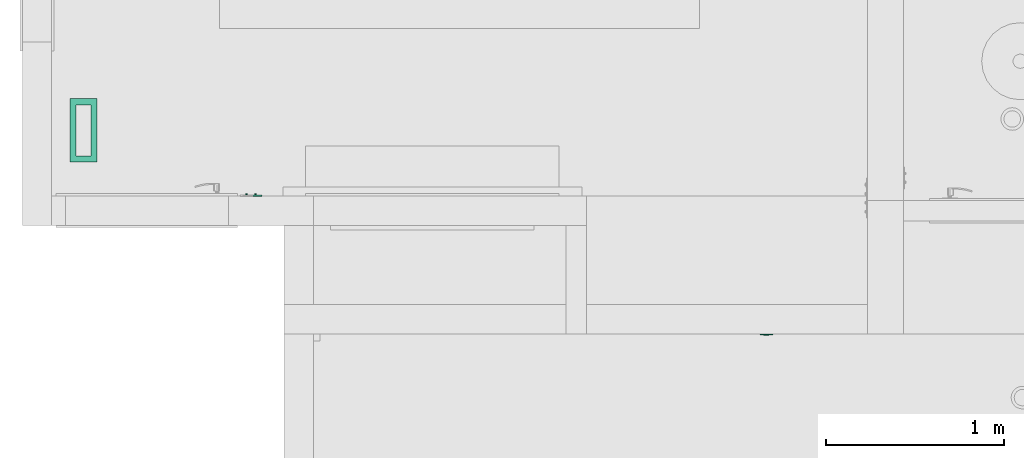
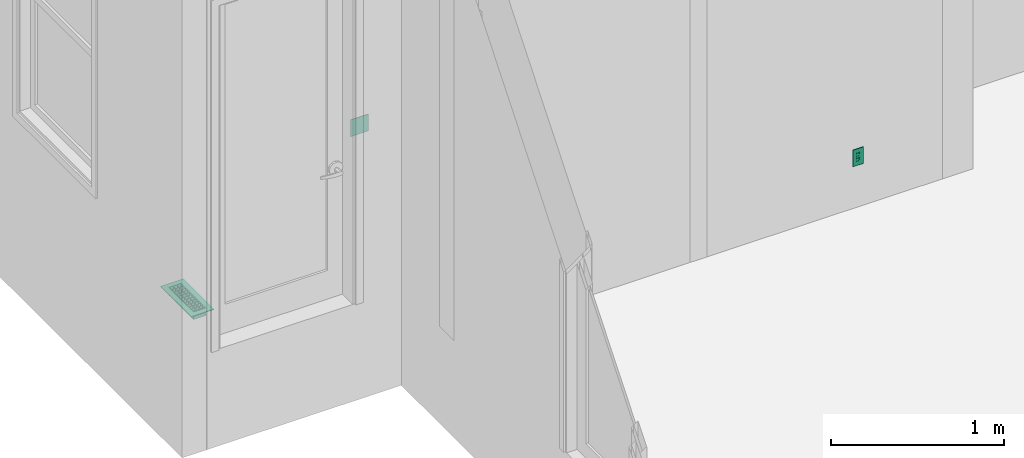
# One storey, part 19 of 103: 2 flow controllers, 1 distribution flow element.
"""IFC2X3 building model written with IfcOpenShell, lengths in inches."""

from ifc_helpers import new_model, entity, si_unit, converted_unit, derived_unit, money_unit, direction, frame, origin_with_axes, place, context, subcontext, project, spatial, open_shell, faceted_brep, surface_model, source, transform, mapped, type_object, element, save


model = new_model("IFC2X3")

# Units and contexts
model_context = context("Model", 3, precision=0.00039370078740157, world=origin_with_axes(), true_north=direction((0.0, 1.0)))
plan_context = context("Plan", 3, precision=0.00039370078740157, world=origin_with_axes(), true_north=direction((0.0, 1.0)))
body_context = subcontext(model_context, "Body", "Model", "MODEL_VIEW")
ifc_project = project(units=[converted_unit("LENGTHUNIT", "INCH", entity("IfcPositiveLengthMeasure", 0.0254), si_unit("LENGTHUNIT", "METRE"), dimensions=[1, 0, 0, 0, 0, 0, 0]), converted_unit("AREAUNIT", "SQUARE_FOOT", entity("IfcPositiveLengthMeasure", 0.09290304), si_unit("AREAUNIT", "SQUARE_METRE"), dimensions=[2, 0, 0, 0, 0, 0, 0]), si_unit("PLANEANGLEUNIT", "RADIAN"), si_unit("SOLIDANGLEUNIT", "STERADIAN"), money_unit("USD"), converted_unit("TIMEUNIT", "Year", entity("IfcTimeMeasure", 31557600.0), si_unit("TIMEUNIT", "SECOND"), dimensions=[0, 0, 1, 0, 0, 0, 0]), si_unit("MASSUNIT", "GRAM", prefix="KILO"), si_unit("THERMODYNAMICTEMPERATUREUNIT", "DEGREE_CELSIUS"), si_unit("LUMINOUSINTENSITYUNIT", "LUMEN"), si_unit("ENERGYUNIT", "JOULE", prefix="MEGA"), derived_unit("SPECIFICHEATCAPACITYUNIT", [(si_unit("ENERGYUNIT", "JOULE"), 1), (si_unit("MASSUNIT", "GRAM", prefix="KILO"), -1), (si_unit("THERMODYNAMICTEMPERATUREUNIT", "KELVIN"), -1)])], contexts=[model_context, plan_context])

# Site, building, storey
site_placement = place(None, origin_with_axes())
site = spatial("IfcSite", under=ifc_project, at=site_placement, Name="Site", CompositionType="ELEMENT")
building_placement = place(site_placement, origin_with_axes())
building = spatial("IfcBuilding", under=site, at=building_placement, Name="Building", CompositionType="ELEMENT")
storey_placement = place(building_placement, frame((0.0, 0.0, 127.9999999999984), z_axis=(0.0, 0.0, 1.0), x_axis=(1.0, 0.0, 0.0)))
storey = spatial("IfcBuildingStorey", under=building, at=storey_placement, Name="Second Floor", CompositionType="ELEMENT", Elevation=128.0)

# Flow controllers
switching_device_type_1 = type_object("IfcSwitchingDeviceType", Name="Outlet 1 US", PredefinedType="NOTDEFINED")
shared_shape_1 = source(origin_with_axes(), body_context, "Body", "Brep", [
    faceted_brep([(0.39370078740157, -0.03444881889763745, -1.18110236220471), (0.5436477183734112, -0.03444881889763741, -0.7086614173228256), (0.5436477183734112, -0.2165354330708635, -0.7086614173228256), (0.39370078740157, -0.2165354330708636, -1.18110236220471), (-0.3937007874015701, -0.03444881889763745, -1.181102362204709), (-0.543647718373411, -0.03444881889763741, -0.7086614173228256), (-0.39370078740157, -0.03444881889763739, -0.2362204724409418), (0.3937007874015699, -0.03444881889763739, -0.2362204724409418), (-0.196850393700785, -0.03444881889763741, -0.7086614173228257), (-0.196850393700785, -0.0344488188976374, -0.4724409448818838), (-0.275590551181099, -0.0344488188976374, -0.4724409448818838), (-0.275590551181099, -0.03444881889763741, -0.7086614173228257), (0.196850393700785, -0.03444881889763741, -0.7086614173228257), (0.275590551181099, -0.03444881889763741, -0.7086614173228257), (0.275590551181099, -0.0344488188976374, -0.4724409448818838), (0.196850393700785, -0.0344488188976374, -0.4724409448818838), (-0.078740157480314, -0.03444881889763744, -1.102362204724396), (0.078740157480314, -0.03444881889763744, -1.102362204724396), (0.078740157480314, -0.03444881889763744, -1.023622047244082), (0.06819097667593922, -0.03444881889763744, -0.9842519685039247), (0.03937007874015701, -0.03444881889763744, -0.9554310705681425), (0.0, -0.03444881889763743, -0.9448818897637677), (-0.03937007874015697, -0.03444881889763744, -0.9554310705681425), (-0.06819097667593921, -0.03444881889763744, -0.9842519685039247), (-0.078740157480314, -0.03444881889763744, -1.023622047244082), (0.3937007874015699, -0.2165354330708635, -0.2362204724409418), (-0.39370078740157, -0.2165354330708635, -0.2362204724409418), (-0.543647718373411, -0.2165354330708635, -0.7086614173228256), (-0.3937007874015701, -0.2165354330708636, -1.181102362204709), (-0.196850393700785, -0.2165354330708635, -0.7086614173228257), (-0.275590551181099, -0.2165354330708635, -0.7086614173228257), (-0.275590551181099, -0.2165354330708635, -0.4724409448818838), (-0.196850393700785, -0.2165354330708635, -0.4724409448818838), (0.196850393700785, -0.2165354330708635, -0.7086614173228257), (0.196850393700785, -0.2165354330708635, -0.4724409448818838), (0.275590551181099, -0.2165354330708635, -0.4724409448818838), (0.275590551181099, -0.2165354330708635, -0.7086614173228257), (-0.078740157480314, -0.2165354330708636, -1.102362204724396), (-0.078740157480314, -0.2165354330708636, -1.023622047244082), (-0.06819097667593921, -0.2165354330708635, -0.9842519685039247), (-0.03937007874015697, -0.2165354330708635, -0.9554310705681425), (0.0, -0.2165354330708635, -0.9448818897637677), (0.03937007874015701, -0.2165354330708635, -0.9554310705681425), (0.06819097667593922, -0.2165354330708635, -0.9842519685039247), (0.078740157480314, -0.2165354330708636, -1.023622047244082), (0.078740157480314, -0.2165354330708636, -1.102362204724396)], [[[0, 1, 2, 3]], [[0, 4, 5, 6, 7, 1], [8, 9, 10, 11], [12, 13, 14, 15], [16, 17, 18, 19, 20, 21, 22, 23, 24]], [[1, 7, 25, 2]], [[3, 2, 25, 26, 27, 28], [29, 30, 31, 32], [33, 34, 35, 36], [37, 38, 39, 40, 41, 42, 43, 44, 45]], [[4, 0, 3, 28]], [[5, 4, 28, 27]], [[6, 5, 27, 26]], [[7, 6, 26, 25]], [[9, 8, 29, 32]], [[10, 9, 32, 31]], [[11, 10, 31, 30]], [[8, 11, 30, 29]], [[13, 12, 33, 36]], [[14, 13, 36, 35]], [[15, 14, 35, 34]], [[12, 15, 34, 33]], [[17, 16, 37, 45]], [[18, 17, 45, 44]], [[19, 18, 44, 43]], [[20, 19, 43, 42]], [[21, 20, 42, 41]], [[22, 21, 41, 40]], [[23, 22, 40, 39]], [[24, 23, 39, 38]], [[16, 24, 38, 37]]]),
    faceted_brep([(0.39370078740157, -0.03444881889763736, 0.2362204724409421), (0.5436477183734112, -0.03444881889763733, 0.7086614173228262), (0.5436477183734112, -0.2165354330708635, 0.7086614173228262), (0.39370078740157, -0.2165354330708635, 0.2362204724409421), (-0.3937007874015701, -0.03444881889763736, 0.2362204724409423), (-0.543647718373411, -0.03444881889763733, 0.7086614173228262), (-0.39370078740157, -0.0344488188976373, 1.18110236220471), (0.3937007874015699, -0.0344488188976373, 1.18110236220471), (-0.196850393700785, -0.03444881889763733, 0.7086614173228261), (-0.196850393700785, -0.03444881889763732, 0.944881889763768), (-0.275590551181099, -0.03444881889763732, 0.944881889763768), (-0.275590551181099, -0.03444881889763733, 0.7086614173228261), (0.196850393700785, -0.03444881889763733, 0.7086614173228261), (0.275590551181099, -0.03444881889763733, 0.7086614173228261), (0.275590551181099, -0.03444881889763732, 0.944881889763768), (0.196850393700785, -0.03444881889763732, 0.944881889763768), (-0.078740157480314, -0.03444881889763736, 0.3149606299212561), (0.078740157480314, -0.03444881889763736, 0.3149606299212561), (0.078740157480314, -0.03444881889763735, 0.3937007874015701), (0.06819097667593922, -0.03444881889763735, 0.4330708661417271), (0.03937007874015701, -0.03444881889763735, 0.4618917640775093), (0.0, -0.03444881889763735, 0.472440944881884), (-0.03937007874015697, -0.03444881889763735, 0.4618917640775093), (-0.06819097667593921, -0.03444881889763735, 0.4330708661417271), (-0.078740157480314, -0.03444881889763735, 0.3937007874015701), (0.3937007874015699, -0.2165354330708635, 1.18110236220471), (-0.39370078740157, -0.2165354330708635, 1.18110236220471), (-0.543647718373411, -0.2165354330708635, 0.7086614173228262), (-0.3937007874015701, -0.2165354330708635, 0.2362204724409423), (-0.196850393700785, -0.2165354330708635, 0.7086614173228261), (-0.275590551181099, -0.2165354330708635, 0.7086614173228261), (-0.275590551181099, -0.2165354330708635, 0.944881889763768), (-0.196850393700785, -0.2165354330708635, 0.944881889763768), (0.196850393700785, -0.2165354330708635, 0.7086614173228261), (0.196850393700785, -0.2165354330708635, 0.944881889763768), (0.275590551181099, -0.2165354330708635, 0.944881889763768), (0.275590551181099, -0.2165354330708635, 0.7086614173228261), (-0.078740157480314, -0.2165354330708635, 0.3149606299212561), (-0.078740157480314, -0.2165354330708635, 0.3937007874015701), (-0.06819097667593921, -0.2165354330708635, 0.4330708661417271), (-0.03937007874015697, -0.2165354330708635, 0.4618917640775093), (0.0, -0.2165354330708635, 0.472440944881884), (0.03937007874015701, -0.2165354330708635, 0.4618917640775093), (0.06819097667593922, -0.2165354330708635, 0.4330708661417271), (0.078740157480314, -0.2165354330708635, 0.3937007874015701), (0.078740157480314, -0.2165354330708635, 0.3149606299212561)], [[[0, 1, 2, 3]], [[0, 4, 5, 6, 7, 1], [8, 9, 10, 11], [12, 13, 14, 15], [16, 17, 18, 19, 20, 21, 22, 23, 24]], [[1, 7, 25, 2]], [[3, 2, 25, 26, 27, 28], [29, 30, 31, 32], [33, 34, 35, 36], [37, 38, 39, 40, 41, 42, 43, 44, 45]], [[4, 0, 3, 28]], [[5, 4, 28, 27]], [[6, 5, 27, 26]], [[7, 6, 26, 25]], [[9, 8, 29, 32]], [[10, 9, 32, 31]], [[11, 10, 31, 30]], [[8, 11, 30, 29]], [[13, 12, 33, 36]], [[14, 13, 36, 35]], [[15, 14, 35, 34]], [[12, 15, 34, 33]], [[17, 16, 37, 45]], [[18, 17, 45, 44]], [[19, 18, 44, 43]], [[20, 19, 43, 42]], [[21, 20, 42, 41]], [[22, 21, 41, 40]], [[23, 22, 40, 39]], [[24, 23, 39, 38]], [[16, 24, 38, 37]]]),
    faceted_brep([(-1.343503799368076, -0.1377952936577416, -2.327755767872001), (1.343503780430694, -0.1377952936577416, -2.327755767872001), (1.343503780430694, -0.1377952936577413, 2.327755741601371), (-1.343503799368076, -0.1377952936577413, 2.327755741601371), (0.39370078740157, -0.1377952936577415, -1.18110236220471), (-0.3937007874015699, -0.1377952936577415, -1.181102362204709), (-0.5436477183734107, -0.1377952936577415, -0.7086614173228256), (-0.39370078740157, -0.1377952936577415, -0.2362204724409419), (0.3937007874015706, -0.1377952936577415, -0.2362204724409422), (0.5436477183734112, -0.1377952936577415, -0.7086614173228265), (-0.39370078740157, -0.1377952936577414, 1.18110236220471), (0.3937007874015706, -0.1377952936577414, 1.18110236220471), (0.5436477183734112, -0.1377952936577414, 0.7086614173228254), (0.39370078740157, -0.1377952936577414, 0.236220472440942), (-0.3937007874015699, -0.1377952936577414, 0.2362204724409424), (-0.5436477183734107, -0.1377952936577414, 0.7086614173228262), (-1.352419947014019, -0.1366214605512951, -2.336671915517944), (1.352419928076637, -0.1366214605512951, -2.336671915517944), (1.352419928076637, -0.1366214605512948, 2.336671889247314), (-1.352419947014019, -0.1366214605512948, 2.336671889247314), (0.39370078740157, -0.03444881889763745, -1.18110236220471), (-0.3937007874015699, -0.03444881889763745, -1.181102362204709), (-0.5436477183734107, -0.03444881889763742, -0.7086614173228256), (-0.39370078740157, -0.03444881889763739, -0.2362204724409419), (0.3937007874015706, -0.03444881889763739, -0.2362204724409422), (0.5436477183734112, -0.03444881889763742, -0.7086614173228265), (-0.39370078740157, -0.0344488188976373, 1.18110236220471), (0.3937007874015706, -0.0344488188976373, 1.18110236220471), (0.5436477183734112, -0.03444881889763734, 0.7086614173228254), (0.39370078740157, -0.03444881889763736, 0.236220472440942), (-0.3937007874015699, -0.03444881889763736, 0.2362204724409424), (-0.5436477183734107, -0.03444881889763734, 0.7086614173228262), (-1.36786294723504, -0.1277054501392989, -2.352114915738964), (1.367862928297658, -0.1277054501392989, -2.352114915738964), (1.367862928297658, -0.1277054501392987, 2.352114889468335), (-1.36786294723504, -0.1277054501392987, 2.352114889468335), (-1.376778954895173, -0.1122624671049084, -2.361030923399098), (1.376778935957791, -0.1122624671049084, -2.361030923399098), (1.376778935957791, -0.1122624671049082, 2.361030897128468), (-1.376778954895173, -0.1122624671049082, 2.361030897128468), (-1.377952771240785, -0.1033464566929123, -2.362204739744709), (1.377952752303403, -0.1033464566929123, -2.362204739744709), (1.377952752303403, -0.103346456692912, 2.36220471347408), (-1.377952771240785, -0.103346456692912, 2.36220471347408), (-1.377952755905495, 0.0, -2.36220472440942), (1.377952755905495, 0.0, -2.36220472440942), (1.377952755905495, 0.0, 2.36220472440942), (-1.377952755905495, 0.0, 2.36220472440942)], [[[0, 1, 2, 3], [4, 5, 6, 7, 8, 9], [10, 11, 12, 13, 14, 15]], [[1, 0, 16, 17]], [[2, 1, 17, 18]], [[3, 2, 18, 19]], [[0, 3, 19, 16]], [[4, 20, 21, 5]], [[5, 21, 22, 6]], [[6, 22, 23, 7]], [[7, 23, 24, 8]], [[8, 24, 25, 9]], [[9, 25, 20, 4]], [[11, 10, 26, 27]], [[12, 11, 27, 28]], [[13, 12, 28, 29]], [[14, 13, 29, 30]], [[15, 14, 30, 31]], [[10, 15, 31, 26]], [[17, 16, 32, 33]], [[18, 17, 33, 34]], [[19, 18, 34, 35]], [[16, 19, 35, 32]], [[22, 21, 20, 25, 24, 23]], [[28, 27, 26, 31, 30, 29]], [[33, 32, 36, 37]], [[34, 33, 37, 38]], [[35, 34, 38, 39]], [[32, 35, 39, 36]], [[37, 36, 40, 41]], [[38, 37, 41, 42]], [[39, 38, 42, 43]], [[36, 39, 43, 40]], [[41, 40, 44, 45]], [[42, 41, 45, 46]], [[43, 42, 46, 47]], [[40, 43, 47, 44]], [[46, 45, 44, 47]]]),
])
flow_controller_1_placement = place(storey_placement, frame((-98.00043221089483, 348.5314519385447, 13.99803149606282), z_axis=(0.0, 0.0, 1.0), x_axis=(0.9999999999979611, 2.01938114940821e-06, 0.0)))
element("IfcFlowController", 1, at=flow_controller_1_placement, inside=storey, type_object=switching_device_type_1, Name="FU - 029", context=body_context, shape_type="MappedRepresentation", body=[
    mapped(shared_shape_1, transform((0.0, 0.0, 0.0))),
])
switching_device_type_2 = type_object("IfcSwitchingDeviceType", Name="Switch US", PredefinedType="NOTDEFINED")
shared_shape_2 = source(origin_with_axes(), body_context, "Body", "Brep", [
    faceted_brep([(-1.18110236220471, 0.0, -0.5905511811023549), (-1.18110236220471, 0.0, 0.5905511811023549), (-0.7874015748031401, 0.0, 0.5905511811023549), (-0.7874015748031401, 0.0, -0.5905511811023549), (-1.18110236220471, -0.1033464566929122, -0.5905511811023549), (-1.18110236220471, -0.1033464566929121, 0.157480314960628), (-1.18110236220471, -0.4970472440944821, 0.1574803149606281), (-1.18110236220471, -0.4970472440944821, 0.472440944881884), (-1.18110236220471, -0.1033464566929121, 0.472440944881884), (-1.18110236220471, -0.103346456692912, 0.5905511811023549), (-0.7874015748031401, -0.1033464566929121, 0.5905511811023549), (-0.7874015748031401, -0.1033464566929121, 0.472440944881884), (-0.7874015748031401, -0.4970472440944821, 0.472440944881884), (-0.7874015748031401, -0.4970472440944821, 0.1574803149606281), (-0.7874015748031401, -0.1033464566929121, 0.157480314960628), (-0.7874015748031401, -0.1033464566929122, -0.5905511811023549)], [[[0, 1, 2, 3]], [[0, 4, 5, 6, 7, 8, 9, 1]], [[1, 9, 10, 2]], [[3, 2, 10, 11, 12, 13, 14, 15]], [[4, 0, 3, 15]], [[5, 4, 15, 14]], [[6, 5, 14, 13]], [[7, 6, 13, 12]], [[8, 7, 12, 11]], [[9, 8, 11, 10]]]),
    faceted_brep([(-1.259842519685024, 0.0, -0.669291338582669), (-0.7086614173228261, 0.0, -0.669291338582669), (-0.7086614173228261, -0.1771653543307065, -0.669291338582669), (-1.259842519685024, -0.1771653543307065, -0.669291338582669), (-1.259842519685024, 0.0, 0.669291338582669), (-0.7086614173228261, 0.0, 0.669291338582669), (-1.18110236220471, 0.0, -0.5905511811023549), (-0.78740157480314, 0.0, -0.5905511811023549), (-0.78740157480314, 0.0, 0.5905511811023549), (-1.18110236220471, 0.0, 0.5905511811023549), (-0.7086614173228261, -0.1771653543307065, 0.669291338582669), (-1.259842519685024, -0.1771653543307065, 0.669291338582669), (-1.18110236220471, -0.1771653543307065, -0.5905511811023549), (-1.18110236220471, -0.1771653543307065, 0.5905511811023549), (-0.78740157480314, -0.1771653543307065, 0.5905511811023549), (-0.78740157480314, -0.1771653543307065, -0.5905511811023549)], [[[0, 1, 2, 3]], [[0, 4, 5, 1], [6, 7, 8, 9]], [[1, 5, 10, 2]], [[3, 2, 10, 11], [12, 13, 14, 15]], [[4, 0, 3, 11]], [[5, 4, 11, 10]], [[7, 6, 12, 15]], [[8, 7, 15, 14]], [[9, 8, 14, 13]], [[6, 9, 13, 12]]]),
    faceted_brep([(0.0, -0.103346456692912, 2.362204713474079), (0.0, 0.0, 2.36220472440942), (-2.36220472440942, 0.0, 2.36220472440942), (-2.362204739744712, -0.103346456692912, 2.362204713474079), (0.0, 0.0, -2.36220472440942), (0.0, -0.1122624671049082, 2.361030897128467), (0.0, -0.1277054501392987, 2.352114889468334), (0.0, -0.1366214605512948, 2.336671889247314), (0.0, -0.1377952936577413, 2.32775574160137), (0.0, -0.1377952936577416, -2.327755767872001), (0.0, -0.1366214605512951, -2.336671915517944), (0.0, -0.1277054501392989, -2.352114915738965), (0.0, -0.1122624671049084, -2.361030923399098), (0.0, -0.1033464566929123, -2.36220473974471), (-2.36220472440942, 0.0, -2.36220472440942), (-0.7086614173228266, 0.0, -0.669291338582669), (-0.7086614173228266, 0.0, 0.669291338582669), (-1.259842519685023, 0.0, 0.669291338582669), (-1.259842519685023, 0.0, -0.669291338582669), (-2.362204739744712, -0.1033464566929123, -2.36220473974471), (-2.361030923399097, -0.1122624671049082, 2.361030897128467), (-2.352114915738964, -0.1277054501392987, 2.352114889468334), (-2.336671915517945, -0.1366214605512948, 2.336671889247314), (-2.327755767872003, -0.1377952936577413, 2.32775574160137), (-2.327755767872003, -0.1377952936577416, -2.327755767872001), (-1.259842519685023, -0.1377952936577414, 0.669291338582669), (-0.7086614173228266, -0.1377952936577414, 0.669291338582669), (-0.7086614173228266, -0.1377952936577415, -0.669291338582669), (-1.259842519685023, -0.1377952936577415, -0.669291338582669), (-2.336671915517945, -0.1366214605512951, -2.336671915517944), (-2.352114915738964, -0.1277054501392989, -2.352114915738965), (-2.361030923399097, -0.1122624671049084, -2.361030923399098)], [[[0, 1, 2, 3]], [[4, 1, 0, 5, 6, 7, 8, 9, 10, 11, 12, 13]], [[1, 4, 14, 2], [15, 16, 17, 18]], [[19, 3, 2, 14]], [[5, 0, 3, 20]], [[6, 5, 20, 21]], [[7, 6, 21, 22]], [[8, 7, 22, 23]], [[9, 8, 23, 24], [25, 26, 27, 28]], [[10, 9, 24, 29]], [[11, 10, 29, 30]], [[12, 11, 30, 31]], [[13, 12, 31, 19]], [[4, 13, 19, 14]], [[15, 27, 26, 16]], [[16, 26, 25, 17]], [[17, 25, 28, 18]], [[18, 28, 27, 15]], [[31, 20, 3, 19]], [[30, 21, 20, 31]], [[29, 22, 21, 30]], [[24, 23, 22, 29]]]),
    faceted_brep([(0.78740157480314, 0.0, -0.5905511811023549), (0.78740157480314, 0.0, 0.5905511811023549), (1.18110236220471, 0.0, 0.5905511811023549), (1.18110236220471, 0.0, -0.5905511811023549), (0.78740157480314, -0.1033464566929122, -0.5905511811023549), (0.78740157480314, -0.1033464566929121, 0.157480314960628), (0.78740157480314, -0.4970472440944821, 0.1574803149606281), (0.78740157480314, -0.4970472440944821, 0.472440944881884), (0.78740157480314, -0.1033464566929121, 0.472440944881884), (0.78740157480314, -0.103346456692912, 0.5905511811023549), (1.18110236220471, -0.1033464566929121, 0.5905511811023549), (1.18110236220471, -0.1033464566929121, 0.472440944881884), (1.18110236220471, -0.4970472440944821, 0.472440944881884), (1.18110236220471, -0.4970472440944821, 0.1574803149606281), (1.18110236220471, -0.1033464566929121, 0.157480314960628), (1.18110236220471, -0.1033464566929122, -0.5905511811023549)], [[[0, 1, 2, 3]], [[0, 4, 5, 6, 7, 8, 9, 1]], [[1, 9, 10, 2]], [[3, 2, 10, 11, 12, 13, 14, 15]], [[4, 0, 3, 15]], [[5, 4, 15, 14]], [[6, 5, 14, 13]], [[7, 6, 13, 12]], [[8, 7, 12, 11]], [[9, 8, 11, 10]]]),
    faceted_brep([(0.7086614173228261, 0.0, -0.669291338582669), (1.259842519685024, 0.0, -0.669291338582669), (1.259842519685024, -0.1771653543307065, -0.669291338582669), (0.7086614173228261, -0.1771653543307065, -0.669291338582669), (0.7086614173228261, 0.0, 0.669291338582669), (1.259842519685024, 0.0, 0.669291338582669), (0.78740157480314, 0.0, -0.5905511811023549), (1.18110236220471, 0.0, -0.5905511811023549), (1.18110236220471, 0.0, 0.5905511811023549), (0.78740157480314, 0.0, 0.5905511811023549), (1.259842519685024, -0.1771653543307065, 0.669291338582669), (0.7086614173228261, -0.1771653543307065, 0.669291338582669), (0.78740157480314, -0.1771653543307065, -0.5905511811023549), (0.78740157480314, -0.1771653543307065, 0.5905511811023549), (1.18110236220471, -0.1771653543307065, 0.5905511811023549), (1.18110236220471, -0.1771653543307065, -0.5905511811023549)], [[[0, 1, 2, 3]], [[0, 4, 5, 1], [6, 7, 8, 9]], [[1, 5, 10, 2]], [[3, 2, 10, 11], [12, 13, 14, 15]], [[4, 0, 3, 11]], [[5, 4, 11, 10]], [[7, 6, 12, 15]], [[8, 7, 15, 14]], [[9, 8, 14, 13]], [[6, 9, 13, 12]]]),
    faceted_brep([(0.0, 0.0, -2.36220472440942), (0.0, 0.0, 2.36220472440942), (2.362204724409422, 0.0, 2.36220472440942), (2.362204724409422, 0.0, -2.36220472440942), (1.259842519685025, 0.0, -0.669291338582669), (1.259842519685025, 0.0, 0.669291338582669), (0.7086614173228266, 0.0, 0.669291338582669), (0.7086614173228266, 0.0, -0.669291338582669), (0.0, -0.103346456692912, 2.362204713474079), (0.0, -0.1033464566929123, -2.36220473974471), (0.0, -0.1122624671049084, -2.361030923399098), (0.0, -0.1277054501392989, -2.352114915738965), (0.0, -0.1366214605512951, -2.336671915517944), (0.0, -0.1377952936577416, -2.327755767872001), (0.0, -0.1377952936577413, 2.32775574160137), (0.0, -0.1366214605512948, 2.336671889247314), (0.0, -0.1277054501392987, 2.352114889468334), (0.0, -0.1122624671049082, 2.361030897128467), (2.362204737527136, -0.103346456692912, 2.362204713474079), (2.362204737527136, -0.1033464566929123, -2.36220473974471), (1.259842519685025, -0.1377952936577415, -0.669291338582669), (1.259842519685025, -0.1377952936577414, 0.669291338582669), (0.7086614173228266, -0.1377952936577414, 0.669291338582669), (0.7086614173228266, -0.1377952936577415, -0.669291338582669), (2.361030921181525, -0.1122624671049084, -2.361030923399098), (2.352114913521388, -0.1277054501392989, -2.352114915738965), (2.336671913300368, -0.1366214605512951, -2.336671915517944), (2.327755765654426, -0.1377952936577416, -2.327755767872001), (2.327755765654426, -0.1377952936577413, 2.32775574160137), (2.336671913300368, -0.1366214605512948, 2.336671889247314), (2.352114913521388, -0.1277054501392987, 2.352114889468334), (2.361030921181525, -0.1122624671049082, 2.361030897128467)], [[[0, 1, 2, 3], [4, 5, 6, 7]], [[8, 1, 0, 9, 10, 11, 12, 13, 14, 15, 16, 17]], [[1, 8, 18, 2]], [[18, 19, 3, 2]], [[9, 0, 3, 19]], [[4, 20, 21, 5]], [[5, 21, 22, 6]], [[6, 22, 23, 7]], [[7, 23, 20, 4]], [[10, 9, 19, 24]], [[11, 10, 24, 25]], [[12, 11, 25, 26]], [[13, 12, 26, 27]], [[14, 13, 27, 28], [22, 21, 20, 23]], [[15, 14, 28, 29]], [[16, 15, 29, 30]], [[17, 16, 30, 31]], [[8, 17, 31, 18]], [[31, 24, 19, 18]], [[30, 25, 24, 31]], [[29, 26, 25, 30]], [[28, 27, 26, 29]]]),
])
flow_controller_2_placement = place(storey_placement, frame((-211.7553200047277, 378.9999998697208, 43.99999999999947), z_axis=(0.0, 0.0, 1.0), x_axis=(-1.0, 0.0, 0.0)))
element("IfcFlowController", 2, at=flow_controller_2_placement, inside=storey, type_object=switching_device_type_2, Name="OBJ-09", context=body_context, shape_type="MappedRepresentation", body=[
    mapped(shared_shape_2, transform((0.0, 0.0, 0.0))),
])

# Distribution flow element
valve_type = type_object("IfcValveType", Name="Rect Floor Register", PredefinedType="NOTDEFINED")
shared_shape_3 = source(origin_with_axes(), body_context, "Body", "SurfaceModel", [
    faceted_brep([(7.002952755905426, 3.002952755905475, 0.0), (-7.002952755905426, 3.002952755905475, 0.0), (-7.002952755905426, 3.002952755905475, 0.196850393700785), (7.002952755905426, 3.002952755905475, 0.196850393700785), (7.002952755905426, -3.002952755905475, 0.0), (-7.002952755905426, -3.002952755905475, 0.0), (5.624999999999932, 1.62499999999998, 0.0), (-5.624999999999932, 1.62499999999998, 0.0), (-5.624999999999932, -1.62499999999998, 0.0), (5.624999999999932, -1.62499999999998, 0.0), (-7.002952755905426, -3.002952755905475, 0.196850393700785), (7.002952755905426, -3.002952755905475, 0.196850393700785), (5.624999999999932, 1.62499999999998, 0.196850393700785), (5.624999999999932, -1.62499999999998, 0.196850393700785), (-5.624999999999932, -1.62499999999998, 0.196850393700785), (-5.624999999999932, 1.62499999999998, 0.196850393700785)], [[[0, 1, 2, 3]], [[0, 4, 5, 1], [6, 7, 8, 9]], [[1, 5, 10, 2]], [[3, 2, 10, 11], [12, 13, 14, 15]], [[4, 0, 3, 11]], [[5, 4, 11, 10]], [[7, 6, 12, 15]], [[8, 7, 15, 14]], [[9, 8, 14, 13]], [[6, 9, 13, 12]]]),
    surface_model("IfcShellBasedSurfaceModel", [(-5.585629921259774, 1.476377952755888, -0.78740157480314), (5.585629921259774, 1.476377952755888, -0.78740157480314), (5.585629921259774, 1.476377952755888, 0.196850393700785), (-5.585629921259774, 1.476377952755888, 0.196850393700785)], [open_shell([[[0, 1, 2, 3]]])]),
    surface_model("IfcShellBasedSurfaceModel", [(-5.585629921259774, 0.4921259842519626, -0.78740157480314), (5.585629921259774, 0.4921259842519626, -0.78740157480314), (5.585629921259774, 0.4921259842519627, 0.196850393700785), (-5.585629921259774, 0.4921259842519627, 0.196850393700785)], [open_shell([[[0, 1, 2, 3]]])]),
    surface_model("IfcShellBasedSurfaceModel", [(-5.585629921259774, -0.4921259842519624, -0.78740157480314), (5.585629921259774, -0.4921259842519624, -0.78740157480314), (5.585629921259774, -0.4921259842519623, 0.196850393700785), (-5.585629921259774, -0.4921259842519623, 0.196850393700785)], [open_shell([[[0, 1, 2, 3]]])]),
    surface_model("IfcShellBasedSurfaceModel", [(-5.585629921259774, -1.476377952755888, -0.78740157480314), (5.585629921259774, -1.476377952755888, -0.78740157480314), (5.585629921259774, -1.476377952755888, 0.196850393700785), (-5.585629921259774, -1.476377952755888, 0.196850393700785)], [open_shell([[[0, 1, 2, 3]]])]),
    surface_model("IfcShellBasedSurfaceModel", [(5.413385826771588, -1.585629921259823, -0.78740157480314), (5.413385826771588, 1.585629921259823, -0.78740157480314), (5.413385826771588, 1.585629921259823, 0.196850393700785), (5.413385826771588, -1.585629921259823, 0.196850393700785)], [open_shell([[[0, 1, 2, 3]]])]),
    surface_model("IfcShellBasedSurfaceModel", [(4.429133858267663, -1.585629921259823, -0.78740157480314), (4.429133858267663, 1.585629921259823, -0.78740157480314), (4.429133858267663, 1.585629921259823, 0.196850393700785), (4.429133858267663, -1.585629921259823, 0.196850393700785)], [open_shell([[[0, 1, 2, 3]]])]),
    surface_model("IfcShellBasedSurfaceModel", [(3.444881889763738, -1.585629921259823, -0.78740157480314), (3.444881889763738, 1.585629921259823, -0.78740157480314), (3.444881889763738, 1.585629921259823, 0.196850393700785), (3.444881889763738, -1.585629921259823, 0.196850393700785)], [open_shell([[[0, 1, 2, 3]]])]),
    surface_model("IfcShellBasedSurfaceModel", [(2.460629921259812, -1.585629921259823, -0.78740157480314), (2.460629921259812, 1.585629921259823, -0.78740157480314), (2.460629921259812, 1.585629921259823, 0.196850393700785), (2.460629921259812, -1.585629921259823, 0.196850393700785)], [open_shell([[[0, 1, 2, 3]]])]),
    surface_model("IfcShellBasedSurfaceModel", [(1.476377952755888, -1.585629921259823, -0.78740157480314), (1.476377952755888, 1.585629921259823, -0.78740157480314), (1.476377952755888, 1.585629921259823, 0.196850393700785), (1.476377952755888, -1.585629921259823, 0.196850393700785)], [open_shell([[[0, 1, 2, 3]]])]),
    surface_model("IfcShellBasedSurfaceModel", [(0.4921259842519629, -1.585629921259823, -0.78740157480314), (0.4921259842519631, 1.585629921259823, -0.78740157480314), (0.4921259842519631, 1.585629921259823, 0.196850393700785), (0.4921259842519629, -1.585629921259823, 0.196850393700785)], [open_shell([[[0, 1, 2, 3]]])]),
    surface_model("IfcShellBasedSurfaceModel", [(-0.4921259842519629, -1.585629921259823, -0.78740157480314), (-0.4921259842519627, 1.585629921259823, -0.78740157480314), (-0.4921259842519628, 1.585629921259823, 0.196850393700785), (-0.492125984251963, -1.585629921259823, 0.196850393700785)], [open_shell([[[0, 1, 2, 3]]])]),
    surface_model("IfcShellBasedSurfaceModel", [(-1.476377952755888, -1.585629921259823, -0.78740157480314), (-1.476377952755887, 1.585629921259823, -0.78740157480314), (-1.476377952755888, 1.585629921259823, 0.196850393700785), (-1.476377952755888, -1.585629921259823, 0.196850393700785)], [open_shell([[[0, 1, 2, 3]]])]),
    surface_model("IfcShellBasedSurfaceModel", [(-2.460629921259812, -1.585629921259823, -0.78740157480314), (-2.460629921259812, 1.585629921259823, -0.78740157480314), (-2.460629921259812, 1.585629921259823, 0.196850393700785), (-2.460629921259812, -1.585629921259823, 0.196850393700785)], [open_shell([[[0, 1, 2, 3]]])]),
    surface_model("IfcShellBasedSurfaceModel", [(-3.444881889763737, -1.585629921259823, -0.78740157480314), (-3.444881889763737, 1.585629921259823, -0.78740157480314), (-3.444881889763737, 1.585629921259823, 0.196850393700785), (-3.444881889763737, -1.585629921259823, 0.196850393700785)], [open_shell([[[0, 1, 2, 3]]])]),
    surface_model("IfcShellBasedSurfaceModel", [(-4.429133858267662, -1.585629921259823, -0.78740157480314), (-4.429133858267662, 1.585629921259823, -0.78740157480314), (-4.429133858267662, 1.585629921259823, 0.196850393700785), (-4.429133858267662, -1.585629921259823, 0.196850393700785)], [open_shell([[[0, 1, 2, 3]]])]),
    surface_model("IfcShellBasedSurfaceModel", [(-5.413385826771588, -1.585629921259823, -0.78740157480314), (-5.413385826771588, 1.585629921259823, -0.78740157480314), (-5.413385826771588, 1.585629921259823, 0.196850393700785), (-5.413385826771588, -1.585629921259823, 0.196850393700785)], [open_shell([[[0, 1, 2, 3]]])]),
    surface_model("IfcShellBasedSurfaceModel", [(-5.624999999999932, -1.62499999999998, 0.0), (-5.624999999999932, 1.62499999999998, 0.0), (-5.624999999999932, 1.62499999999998, -1.999999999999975), (-5.624999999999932, -1.62499999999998, -1.999999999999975), (5.624999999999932, 1.62499999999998, 0.0), (5.624999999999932, 1.62499999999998, -1.999999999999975), (5.624999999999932, -1.62499999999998, 0.0), (5.624999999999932, -1.62499999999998, -1.999999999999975)], [open_shell([[[0, 1, 2, 3]], [[1, 4, 5, 2]], [[6, 0, 3, 7]], [[4, 6, 7, 5]]])]),
])
distribution_flow_element_placement = place(storey_placement, frame((-248.7470472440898, 393.5014654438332, 0.0), z_axis=(0.0, 0.0, 1.0), x_axis=(0.0, -1.0, 0.0)))
element("IfcDistributionFlowElement", 3, at=distribution_flow_element_placement, inside=storey, type_object=valve_type, Name="FU - 027", context=body_context, shape_type="MappedRepresentation", body=[
    mapped(shared_shape_3, transform((0.0, 0.0, 0.0))),
])

save(model, "model.ifc")
